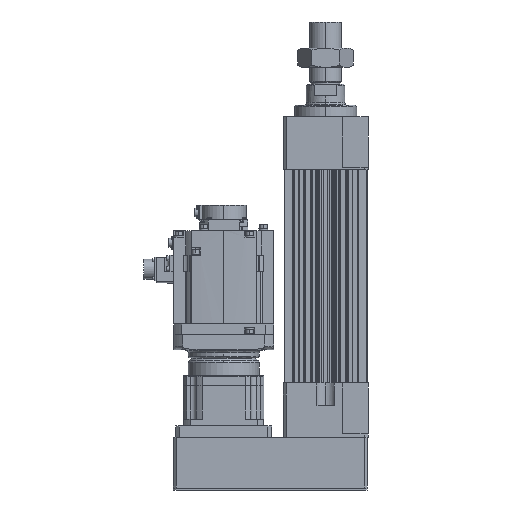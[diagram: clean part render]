
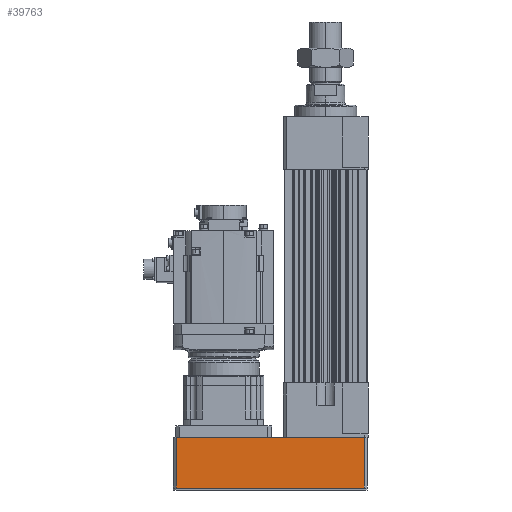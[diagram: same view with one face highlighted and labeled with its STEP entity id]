
A CAD part, left-side view. The second image highlights one B-rep face of the part: STEP entity #39763.
In plain terms, the highlighted planar face has unit normal (-1, 0, 0).
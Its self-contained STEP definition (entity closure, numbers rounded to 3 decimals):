
#359 = DIRECTION ( 'NONE',  ( 0., 0., -1. ) ) ;
#1393 = PLANE ( 'NONE',  #46706 ) ;
#2064 = EDGE_CURVE ( 'NONE', #40652, #16270, #53260, .T. ) ;
#2738 = CARTESIAN_POINT ( 'NONE',  ( -73.5, 68.5, 0.5 ) ) ;
#4363 = CARTESIAN_POINT ( 'NONE',  ( -73.5, -264., 89.5 ) ) ;
#4898 = CARTESIAN_POINT ( 'NONE',  ( -73.5, -264., 90. ) ) ;
#5307 = DIRECTION ( 'NONE',  ( 0., -1., 0. ) ) ;
#5739 = EDGE_CURVE ( 'NONE', #35849, #11047, #32926, .T. ) ;
#7297 = ORIENTED_EDGE ( 'NONE', *, *, #2064, .T. ) ;
#9168 = ORIENTED_EDGE ( 'NONE', *, *, #5739, .T. ) ;
#9387 = DIRECTION ( 'NONE',  ( 0., 0., 1. ) ) ;
#9979 = CARTESIAN_POINT ( 'NONE',  ( -73.5, 73.5, 0.5 ) ) ;
#11047 = VERTEX_POINT ( 'NONE', #4363 ) ;
#11876 = VECTOR ( 'NONE', #5307, 1000. ) ;
#12869 = CARTESIAN_POINT ( 'NONE',  ( -73.5, 68.5, 90. ) ) ;
#16270 = VERTEX_POINT ( 'NONE', #2738 ) ;
#17647 = ORIENTED_EDGE ( 'NONE', *, *, #36923, .T. ) ;
#22877 = DIRECTION ( 'NONE',  ( 1., 0., 0. ) ) ;
#23235 = LINE ( 'NONE', #9979, #11876 ) ;
#23888 = EDGE_LOOP ( 'NONE', ( #7297, #26094, #9168, #17647 ) ) ;
#25384 = CARTESIAN_POINT ( 'NONE',  ( -73.5, 68.5, 89.5 ) ) ;
#26094 = ORIENTED_EDGE ( 'NONE', *, *, #55026, .T. ) ;
#28173 = CARTESIAN_POINT ( 'NONE',  ( -73.5, 68.5, 89.5 ) ) ;
#30034 = CARTESIAN_POINT ( 'NONE',  ( -73.5, -264., 0.5 ) ) ;
#32586 = VECTOR ( 'NONE', #36789, 1000. ) ;
#32926 = LINE ( 'NONE', #4898, #40954 ) ;
#35849 = VERTEX_POINT ( 'NONE', #30034 ) ;
#35954 = DIRECTION ( 'NONE',  ( 0., 1., 0. ) ) ;
#36789 = DIRECTION ( 'NONE',  ( 0., 1., 0. ) ) ;
#36923 = EDGE_CURVE ( 'NONE', #11047, #40652, #51238, .T. ) ;
#39763 = ADVANCED_FACE ( 'NONE', ( #51675 ), #1393, .F. ) ;
#40631 = VECTOR ( 'NONE', #359, 1000. ) ;
#40652 = VERTEX_POINT ( 'NONE', #25384 ) ;
#40954 = VECTOR ( 'NONE', #9387, 1000. ) ;
#46706 = AXIS2_PLACEMENT_3D ( 'NONE', #48410, #22877, #35954 ) ;
#48410 = CARTESIAN_POINT ( 'NONE',  ( -73.5, 73.5, 90. ) ) ;
#51238 = LINE ( 'NONE', #28173, #32586 ) ;
#51675 = FACE_OUTER_BOUND ( 'NONE', #23888, .T. ) ;
#53260 = LINE ( 'NONE', #12869, #40631 ) ;
#55026 = EDGE_CURVE ( 'NONE', #16270, #35849, #23235, .T. ) ;
